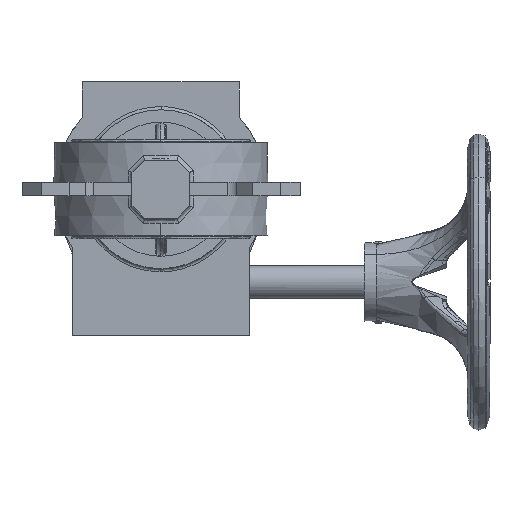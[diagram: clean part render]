
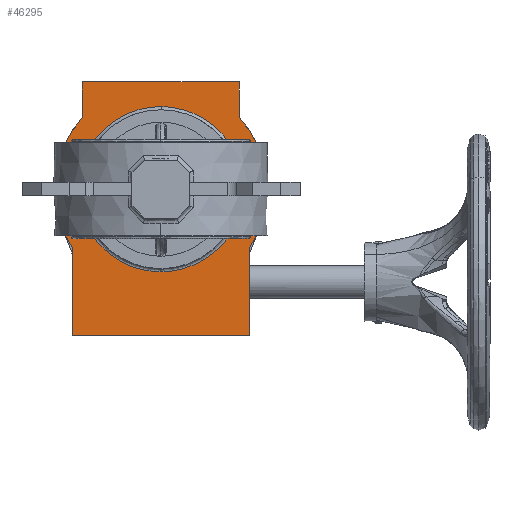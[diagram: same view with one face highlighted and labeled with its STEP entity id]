
A CAD part, front view. The second image highlights one B-rep face of the part: STEP entity #46295.
In plain terms, the highlighted planar face has unit normal (0, -1, 0).
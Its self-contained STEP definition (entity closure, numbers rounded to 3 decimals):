
#118 = CARTESIAN_POINT ( 'NONE',  ( -0.383, 160., -39.998 ) ) ;
#279 = VECTOR ( 'NONE', #10654, 1000. ) ;
#1320 = FACE_OUTER_BOUND ( 'NONE', #81084, .T. ) ;
#2846 = CARTESIAN_POINT ( 'NONE',  ( 0.128, 160., 40. ) ) ;
#3132 = CARTESIAN_POINT ( 'NONE',  ( -43., 160., 0. ) ) ;
#3164 = DIRECTION ( 'NONE',  ( 0., 0., 1. ) ) ;
#4148 = LINE ( 'NONE', #48166, #56455 ) ;
#4304 = AXIS2_PLACEMENT_3D ( 'NONE', #9570, #70510, #85496 ) ;
#5617 = VERTEX_POINT ( 'NONE', #79234 ) ;
#6406 = EDGE_CURVE ( 'NONE', #87709, #42522, #34743, .T. ) ;
#8126 = CARTESIAN_POINT ( 'NONE',  ( -0.128, 160., -40. ) ) ;
#8293 = LINE ( 'NONE', #47265, #38236 ) ;
#8470 = ORIENTED_EDGE ( 'NONE', *, *, #6406, .F. ) ;
#8734 = ORIENTED_EDGE ( 'NONE', *, *, #31082, .F. ) ;
#8766 = CARTESIAN_POINT ( 'NONE',  ( 38., 160., 52. ) ) ;
#9570 = CARTESIAN_POINT ( 'NONE',  ( 0., 160., 0. ) ) ;
#9651 = CARTESIAN_POINT ( 'NONE',  ( 0., 160., -40. ) ) ;
#10126 = CARTESIAN_POINT ( 'NONE',  ( 0.383, 160., 39.998 ) ) ;
#10654 = DIRECTION ( 'NONE',  ( 0., 0., 1. ) ) ;
#10761 = CIRCLE ( 'NONE', #4304, 51.5 ) ;
#13183 = AXIS2_PLACEMENT_3D ( 'NONE', #93689, #88179, #19786 ) ;
#13293 = VERTEX_POINT ( 'NONE', #26829 ) ;
#14635 = CARTESIAN_POINT ( 'NONE',  ( -79.619, 160., -39.239 ) ) ;
#15646 = LINE ( 'NONE', #76577, #31859 ) ;
#17092 = VERTEX_POINT ( 'NONE', #76211 ) ;
#18357 = VERTEX_POINT ( 'NONE', #37716 ) ;
#18595 = LINE ( 'NONE', #63550, #73187 ) ;
#19786 = DIRECTION ( 'NONE',  ( 0., 0., 1. ) ) ;
#20319 = ORIENTED_EDGE ( 'NONE', *, *, #32874, .F. ) ;
#20649 = ORIENTED_EDGE ( 'NONE', *, *, #63664, .F. ) ;
#21956 =( BOUNDED_CURVE ( )  B_SPLINE_CURVE ( 3, ( #60120, #91551, #14635, #60627 ),
 .UNSPECIFIED., .F., .F. ) 
 B_SPLINE_CURVE_WITH_KNOTS ( ( 4, 4 ),
 ( 0., 0.997 ),
 .UNSPECIFIED. ) 
 CURVE ( )  GEOMETRIC_REPRESENTATION_ITEM ( )  RATIONAL_B_SPLINE_CURVE ( ( 1., 0.337, 0.337, 1. ) ) 
 REPRESENTATION_ITEM ( '' )  );
#23144 = CARTESIAN_POINT ( 'NONE',  ( -0.256, 160., -39.999 ) ) ;
#24960 = CARTESIAN_POINT ( 'NONE',  ( -38., 160., 52. ) ) ;
#25190 = ORIENTED_EDGE ( 'NONE', *, *, #87056, .F. ) ;
#25332 =( BOUNDED_CURVE ( )  B_SPLINE_CURVE ( 3, ( #9651, #31734, #62145, #10126 ),
 .UNSPECIFIED., .F., .F. ) 
 B_SPLINE_CURVE_WITH_KNOTS ( ( 4, 4 ),
 ( 0., 0.997 ),
 .UNSPECIFIED. ) 
 CURVE ( )  GEOMETRIC_REPRESENTATION_ITEM ( )  RATIONAL_B_SPLINE_CURVE ( ( 1., 0.337, 0.337, 1. ) ) 
 REPRESENTATION_ITEM ( '' )  );
#25614 = DIRECTION ( 'NONE',  ( 1., 0., 0. ) ) ;
#26829 = CARTESIAN_POINT ( 'NONE',  ( 38., 160., 34.76 ) ) ;
#30063 = ORIENTED_EDGE ( 'NONE', *, *, #52433, .F. ) ;
#30356 = ORIENTED_EDGE ( 'NONE', *, *, #49888, .F. ) ;
#31082 = EDGE_CURVE ( 'NONE', #75119, #81737, #93901, .T. ) ;
#31734 = CARTESIAN_POINT ( 'NONE',  ( 79.24, 160., -40. ) ) ;
#31859 = VECTOR ( 'NONE', #38190, 1000. ) ;
#32874 = EDGE_CURVE ( 'NONE', #40479, #18357, #33350, .T. ) ;
#33350 =( BOUNDED_CURVE ( )  B_SPLINE_CURVE ( 3, ( #118, #23144, #8126, #52647 ),
 .UNSPECIFIED., .F., .F. ) 
 B_SPLINE_CURVE_WITH_KNOTS ( ( 4, 4 ),
 ( 0.997, 1. ),
 .UNSPECIFIED. ) 
 CURVE ( )  GEOMETRIC_REPRESENTATION_ITEM ( )  RATIONAL_B_SPLINE_CURVE ( ( 1., 1., 1., 1. ) ) 
 REPRESENTATION_ITEM ( '' )  );
#34743 = LINE ( 'NONE', #95116, #85703 ) ;
#37716 = CARTESIAN_POINT ( 'NONE',  ( 0., 160., -40. ) ) ;
#37804 = EDGE_CURVE ( 'NONE', #92651, #40479, #21956, .T. ) ;
#38190 = DIRECTION ( 'NONE',  ( 0., 0., -1. ) ) ;
#38236 = VECTOR ( 'NONE', #77725, 1000. ) ;
#40479 = VERTEX_POINT ( 'NONE', #67857 ) ;
#42522 = VERTEX_POINT ( 'NONE', #65318 ) ;
#45188 = ORIENTED_EDGE ( 'NONE', *, *, #56013, .F. ) ;
#45629 = EDGE_CURVE ( 'NONE', #5617, #75119, #64606, .T. ) ;
#46295 = ADVANCED_FACE ( 'NONE', ( #47300, #1320 ), #62280, .F. ) ;
#47265 = CARTESIAN_POINT ( 'NONE',  ( 0., 160., -71. ) ) ;
#47300 = FACE_BOUND ( 'NONE', #94236, .T. ) ;
#47455 = EDGE_CURVE ( 'NONE', #81737, #64991, #4148, .T. ) ;
#47485 = DIRECTION ( 'NONE',  ( 0., 1., 0. ) ) ;
#48166 = CARTESIAN_POINT ( 'NONE',  ( -38., 160., 0. ) ) ;
#49702 = CARTESIAN_POINT ( 'NONE',  ( 0., 160., 40. ) ) ;
#49888 = EDGE_CURVE ( 'NONE', #17092, #92651, #90381, .T. ) ;
#52057 = CARTESIAN_POINT ( 'NONE',  ( 0., 160., 0. ) ) ;
#52433 = EDGE_CURVE ( 'NONE', #13293, #87709, #10761, .T. ) ;
#52647 = CARTESIAN_POINT ( 'NONE',  ( 0., 160., -40. ) ) ;
#56013 = EDGE_CURVE ( 'NONE', #64991, #97958, #18595, .T. ) ;
#56455 = VECTOR ( 'NONE', #3164, 1000. ) ;
#60120 = CARTESIAN_POINT ( 'NONE',  ( 0., 160., 40. ) ) ;
#60627 = CARTESIAN_POINT ( 'NONE',  ( -0.383, 160., -39.998 ) ) ;
#61634 = ORIENTED_EDGE ( 'NONE', *, *, #47455, .F. ) ;
#62101 = CARTESIAN_POINT ( 'NONE',  ( -43., 160., -28.342 ) ) ;
#62145 = CARTESIAN_POINT ( 'NONE',  ( 79.619, 160., 39.239 ) ) ;
#62280 = PLANE ( 'NONE',  #13183 ) ;
#62496 = CARTESIAN_POINT ( 'NONE',  ( 43., 160., -28.342 ) ) ;
#63550 = CARTESIAN_POINT ( 'NONE',  ( 0., 160., 52. ) ) ;
#63664 = EDGE_CURVE ( 'NONE', #18357, #17092, #25332, .T. ) ;
#63824 = CARTESIAN_POINT ( 'NONE',  ( 0., 160., 40. ) ) ;
#64606 = LINE ( 'NONE', #3132, #279 ) ;
#64991 = VERTEX_POINT ( 'NONE', #24960 ) ;
#65318 = CARTESIAN_POINT ( 'NONE',  ( 43., 160., -71. ) ) ;
#65788 = CARTESIAN_POINT ( 'NONE',  ( 0.383, 160., 39.998 ) ) ;
#67857 = CARTESIAN_POINT ( 'NONE',  ( -0.383, 160., -39.998 ) ) ;
#70510 = DIRECTION ( 'NONE',  ( 0., 1., 0. ) ) ;
#73187 = VECTOR ( 'NONE', #25614, 1000. ) ;
#75119 = VERTEX_POINT ( 'NONE', #62101 ) ;
#76211 = CARTESIAN_POINT ( 'NONE',  ( 0.383, 160., 39.998 ) ) ;
#76577 = CARTESIAN_POINT ( 'NONE',  ( 38., 160., 0. ) ) ;
#77537 = ORIENTED_EDGE ( 'NONE', *, *, #92081, .F. ) ;
#77725 = DIRECTION ( 'NONE',  ( -1., 0., 0. ) ) ;
#79234 = CARTESIAN_POINT ( 'NONE',  ( -43., 160., -71. ) ) ;
#80764 = CARTESIAN_POINT ( 'NONE',  ( 0.256, 160., 39.999 ) ) ;
#81084 = EDGE_LOOP ( 'NONE', ( #30063, #77537, #45188, #61634, #8734, #91397, #25190, #8470 ) ) ;
#81737 = VERTEX_POINT ( 'NONE', #83998 ) ;
#83998 = CARTESIAN_POINT ( 'NONE',  ( -38., 160., 34.76 ) ) ;
#85496 = DIRECTION ( 'NONE',  ( 0., 0., 1. ) ) ;
#85703 = VECTOR ( 'NONE', #96108, 1000. ) ;
#87056 = EDGE_CURVE ( 'NONE', #42522, #5617, #8293, .T. ) ;
#87709 = VERTEX_POINT ( 'NONE', #62496 ) ;
#88179 = DIRECTION ( 'NONE',  ( 0., 1., 0. ) ) ;
#90327 = ORIENTED_EDGE ( 'NONE', *, *, #37804, .F. ) ;
#90381 =( BOUNDED_CURVE ( )  B_SPLINE_CURVE ( 3, ( #65788, #80764, #2846, #63824 ),
 .UNSPECIFIED., .F., .F. ) 
 B_SPLINE_CURVE_WITH_KNOTS ( ( 4, 4 ),
 ( 0.997, 1. ),
 .UNSPECIFIED. ) 
 CURVE ( )  GEOMETRIC_REPRESENTATION_ITEM ( )  RATIONAL_B_SPLINE_CURVE ( ( 1., 1., 1., 1. ) ) 
 REPRESENTATION_ITEM ( '' )  );
#91397 = ORIENTED_EDGE ( 'NONE', *, *, #45629, .F. ) ;
#91450 = DIRECTION ( 'NONE',  ( 0., 0., -1. ) ) ;
#91551 = CARTESIAN_POINT ( 'NONE',  ( -79.24, 160., 40. ) ) ;
#92081 = EDGE_CURVE ( 'NONE', #97958, #13293, #15646, .T. ) ;
#92651 = VERTEX_POINT ( 'NONE', #49702 ) ;
#93689 = CARTESIAN_POINT ( 'NONE',  ( 0., 160., 0. ) ) ;
#93901 = CIRCLE ( 'NONE', #98981, 51.5 ) ;
#94236 = EDGE_LOOP ( 'NONE', ( #90327, #30356, #20649, #20319 ) ) ;
#95116 = CARTESIAN_POINT ( 'NONE',  ( 43., 160., 0. ) ) ;
#96108 = DIRECTION ( 'NONE',  ( 0., 0., -1. ) ) ;
#97958 = VERTEX_POINT ( 'NONE', #8766 ) ;
#98981 = AXIS2_PLACEMENT_3D ( 'NONE', #52057, #47485, #91450 ) ;
